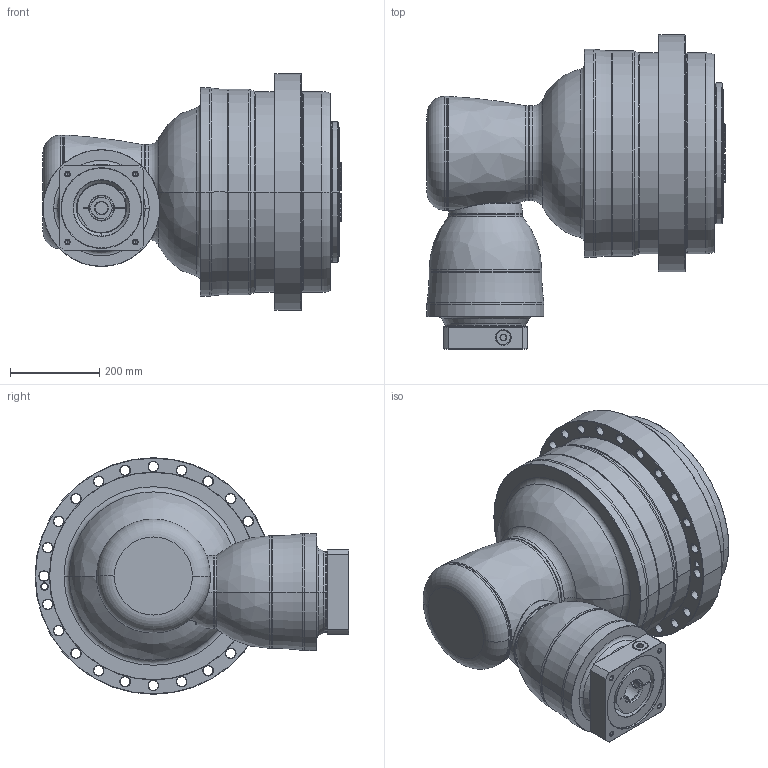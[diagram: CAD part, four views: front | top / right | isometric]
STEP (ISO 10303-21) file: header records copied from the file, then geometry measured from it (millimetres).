
FILE_DESCRIPTION((''),'2;1');
FILE_NAME('APCK450_4ST_48-P0409B10201_ASM','2018-05-17T',('d01226'),(''),'PRO/ENGINEER BY PARAMETRIC TECHNOLOGY CORPORATION, 2008410','PRO/ENGINEER BY PARAMETRIC TECHNOLOGY CORPORATION, 2008410','');
FILE_SCHEMA(('CONFIG_CONTROL_DESIGN'));
Length unit declared in the file: millimetre
Products named in the file (13): P1008700002; P1315700001; P1007701001; P1317701401; P0409B10201; P0503B00016; P0912654001; 21711426021; P1821200001; P0276201003; P03572B0103; P1222200001; APCK450_4ST_48-P0409B10201_ASM
Assembly tree (12 placements, depth 2):
  APCK450_4ST_48-P0409B10201_ASM
    P1008700002
    P1315700001
    P1007701001
    P1317701401
    P0409B10201
    P0503B00016
    P0912654001
    21711426021
    P1821200001
    P0276201003
    P03572B0103
    P1222200001
Bounding box: 667.6 x 703 x 530 mm (x, y, z)
Volume: 90736772.8 mm3; surface area: 3174236 mm2
Topology: 13 solids, 25 shells, 848 faces, 2051 edges, 1259 vertices
Faces by surface type: cone 266, cylinder 231, plane 163, torus 158, bspline 28, sphere 2
Entity records: 34358 total; most frequent: CARTESIAN_POINT 14074, DIRECTION 4524, ORIENTED_EDGE 4024, EDGE_CURVE 2037, AXIS2_PLACEMENT_3D 2012, VERTEX_POINT 1259, CIRCLE 1155, EDGE_LOOP 960
